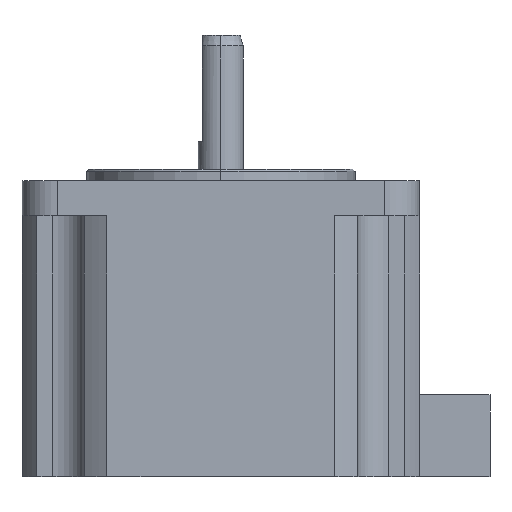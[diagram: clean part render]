
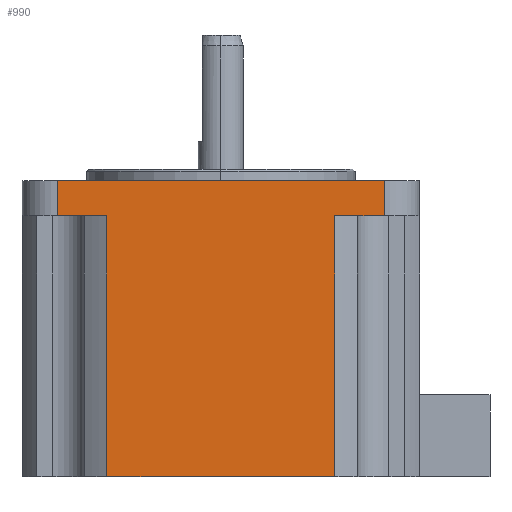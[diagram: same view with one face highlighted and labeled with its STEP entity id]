
A CAD part, left-side view. The second image highlights one B-rep face of the part: STEP entity #990.
In plain terms, the highlighted planar face has unit normal (-1, 0, 0).
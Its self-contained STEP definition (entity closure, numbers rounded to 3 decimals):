
#24 = CARTESIAN_POINT ( 'NONE',  ( -28.2, -23.2, -6.6 ) ) ;
#53 = VERTEX_POINT ( 'NONE', #713 ) ;
#66 = LINE ( 'NONE', #1937, #641 ) ;
#89 = CARTESIAN_POINT ( 'NONE',  ( -28.2, 23.2, -6.6 ) ) ;
#112 = VECTOR ( 'NONE', #1142, 1000. ) ;
#115 = ORIENTED_EDGE ( 'NONE', *, *, #1844, .F. ) ;
#134 = DIRECTION ( 'NONE',  ( 0., 1., 0. ) ) ;
#198 = LINE ( 'NONE', #2062, #2011 ) ;
#235 = EDGE_CURVE ( 'NONE', #1052, #53, #237, .T. ) ;
#237 = LINE ( 'NONE', #24, #1798 ) ;
#351 = DIRECTION ( 'NONE',  ( 1., 0., 0. ) ) ;
#360 = CARTESIAN_POINT ( 'NONE',  ( -28.2, -23.2, -6.6 ) ) ;
#377 = EDGE_CURVE ( 'NONE', #545, #1544, #198, .T. ) ;
#389 = CARTESIAN_POINT ( 'NONE',  ( -28.2, 16.156, -6.6 ) ) ;
#433 = CARTESIAN_POINT ( 'NONE',  ( -28.2, 16.156, -43.6 ) ) ;
#517 = DIRECTION ( 'NONE',  ( 0., 1., 0. ) ) ;
#536 = DIRECTION ( 'NONE',  ( 0., 0., 1. ) ) ;
#545 = VERTEX_POINT ( 'NONE', #1415 ) ;
#548 = VECTOR ( 'NONE', #536, 1000. ) ;
#576 = CARTESIAN_POINT ( 'NONE',  ( -28.2, 28.2, -6.6 ) ) ;
#601 = DIRECTION ( 'NONE',  ( 0., 0., 1. ) ) ;
#641 = VECTOR ( 'NONE', #1722, 1000. ) ;
#712 = ORIENTED_EDGE ( 'NONE', *, *, #1641, .T. ) ;
#713 = CARTESIAN_POINT ( 'NONE',  ( -28.2, -23.2, -1.6 ) ) ;
#726 = EDGE_CURVE ( 'NONE', #768, #1784, #970, .T. ) ;
#745 = CARTESIAN_POINT ( 'NONE',  ( -28.2, 28.2, -6.6 ) ) ;
#762 = CARTESIAN_POINT ( 'NONE',  ( -28.2, 16.156, -43.6 ) ) ;
#768 = VERTEX_POINT ( 'NONE', #433 ) ;
#797 = PLANE ( 'NONE',  #1705 ) ;
#816 = CARTESIAN_POINT ( 'NONE',  ( -28.2, -16.156, -43.6 ) ) ;
#890 = VECTOR ( 'NONE', #601, 1000. ) ;
#956 = LINE ( 'NONE', #745, #1154 ) ;
#970 = LINE ( 'NONE', #762, #548 ) ;
#990 = ADVANCED_FACE ( 'NONE', ( #1233 ), #797, .F. ) ;
#1009 = ORIENTED_EDGE ( 'NONE', *, *, #1439, .F. ) ;
#1024 = LINE ( 'NONE', #816, #890 ) ;
#1051 = VECTOR ( 'NONE', #1594, 1000. ) ;
#1052 = VERTEX_POINT ( 'NONE', #360 ) ;
#1109 = VERTEX_POINT ( 'NONE', #1532 ) ;
#1114 = EDGE_CURVE ( 'NONE', #53, #545, #1747, .T. ) ;
#1124 = ORIENTED_EDGE ( 'NONE', *, *, #235, .T. ) ;
#1142 = DIRECTION ( 'NONE',  ( 0., 1., 0. ) ) ;
#1154 = VECTOR ( 'NONE', #517, 1000. ) ;
#1184 = EDGE_LOOP ( 'NONE', ( #115, #1124, #2005, #1944, #1009, #1516, #1601, #712 ) ) ;
#1233 = FACE_OUTER_BOUND ( 'NONE', #1184, .T. ) ;
#1339 = CARTESIAN_POINT ( 'NONE',  ( -28.2, 28.2, -1.6 ) ) ;
#1415 = CARTESIAN_POINT ( 'NONE',  ( -28.2, 23.2, -1.6 ) ) ;
#1439 = EDGE_CURVE ( 'NONE', #1784, #1544, #956, .T. ) ;
#1516 = ORIENTED_EDGE ( 'NONE', *, *, #726, .F. ) ;
#1532 = CARTESIAN_POINT ( 'NONE',  ( -28.2, -16.156, -43.6 ) ) ;
#1544 = VERTEX_POINT ( 'NONE', #89 ) ;
#1594 = DIRECTION ( 'NONE',  ( 0., 1., 0. ) ) ;
#1601 = ORIENTED_EDGE ( 'NONE', *, *, #1658, .F. ) ;
#1641 = EDGE_CURVE ( 'NONE', #1109, #1807, #1024, .T. ) ;
#1658 = EDGE_CURVE ( 'NONE', #1109, #768, #2018, .T. ) ;
#1705 = AXIS2_PLACEMENT_3D ( 'NONE', #576, #351, #134 ) ;
#1722 = DIRECTION ( 'NONE',  ( 0., 1., 0. ) ) ;
#1747 = LINE ( 'NONE', #1339, #112 ) ;
#1784 = VERTEX_POINT ( 'NONE', #389 ) ;
#1798 = VECTOR ( 'NONE', #1898, 1000. ) ;
#1807 = VERTEX_POINT ( 'NONE', #2031 ) ;
#1808 = CARTESIAN_POINT ( 'NONE',  ( -28.2, 0., -43.6 ) ) ;
#1844 = EDGE_CURVE ( 'NONE', #1052, #1807, #66, .T. ) ;
#1856 = DIRECTION ( 'NONE',  ( 0., 0., -1. ) ) ;
#1898 = DIRECTION ( 'NONE',  ( 0., 0., 1. ) ) ;
#1937 = CARTESIAN_POINT ( 'NONE',  ( -28.2, 28.2, -6.6 ) ) ;
#1944 = ORIENTED_EDGE ( 'NONE', *, *, #377, .T. ) ;
#2005 = ORIENTED_EDGE ( 'NONE', *, *, #1114, .T. ) ;
#2011 = VECTOR ( 'NONE', #1856, 1000. ) ;
#2018 = LINE ( 'NONE', #1808, #1051 ) ;
#2031 = CARTESIAN_POINT ( 'NONE',  ( -28.2, -16.156, -6.6 ) ) ;
#2062 = CARTESIAN_POINT ( 'NONE',  ( -28.2, 23.2, -6.6 ) ) ;
